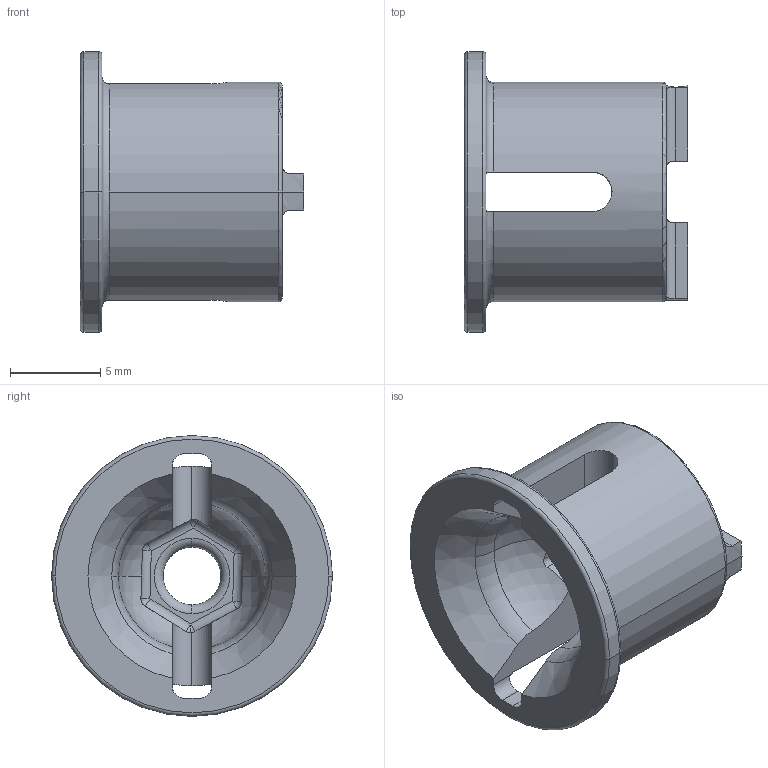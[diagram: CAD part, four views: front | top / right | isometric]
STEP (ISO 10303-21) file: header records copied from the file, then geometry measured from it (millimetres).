
FILE_DESCRIPTION (( 'STEP AP214' ), '1' );
FILE_NAME ('Ïåðåäíÿÿ ÷àøêà çàäíÿÿ 2.0.STEP', '2019-03-21T14:26:49', ( '' ), ( '' ), 'SwSTEP 2.0', 'SolidWorks 2018', '' );
FILE_SCHEMA (( 'AUTOMOTIVE_DESIGN' ));
Length unit declared in the file: millimetre
Products named in the file (1): Ïåðåäíÿÿ ÷àøêà çàäíÿÿ 2.0
Bounding box: 12.4 x 15.6 x 15.6 mm (x, y, z)
Volume: 877.9 mm3; surface area: 1015.6 mm2
Topology: 1 solids, 1 shells, 88 faces, 234 edges, 144 vertices
Faces by surface type: cylinder 37, plane 23, torus 14, sphere 11, cone 3
Entity records: 2874 total; most frequent: CARTESIAN_POINT 662, DIRECTION 472, ORIENTED_EDGE 462, EDGE_CURVE 231, AXIS2_PLACEMENT_3D 193, VERTEX_POINT 143, CIRCLE 104, EDGE_LOOP 92
